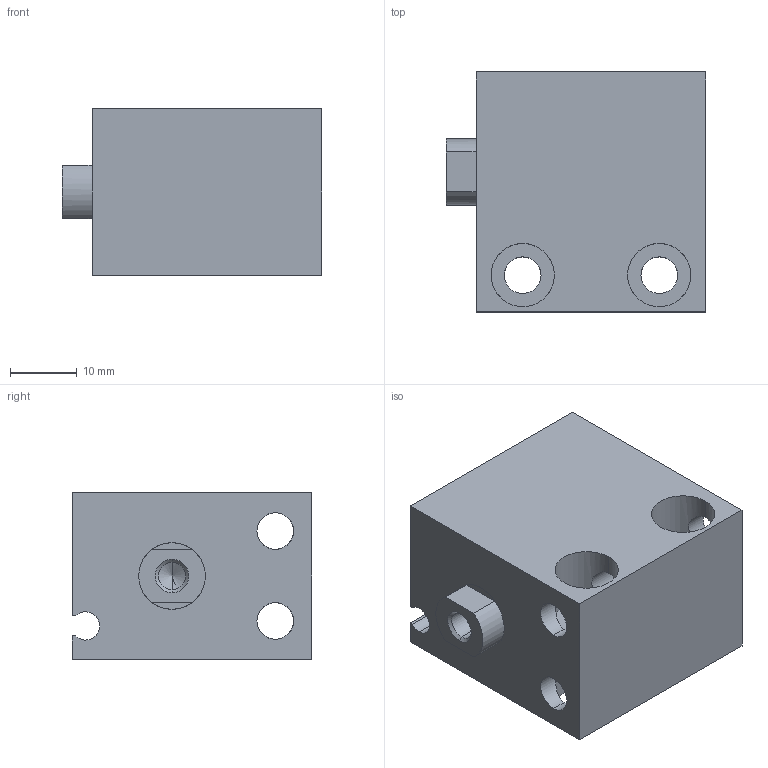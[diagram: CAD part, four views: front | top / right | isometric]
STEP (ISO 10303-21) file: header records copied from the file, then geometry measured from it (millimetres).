
FILE_DESCRIPTION (( 'STEP AP203' ), '1' );
FILE_NAME ('CLJB20-15.STEP', '2020-07-30T19:26:00', ( '' ), ( '' ), 'SwSTEP 2.0', 'SolidWorks 2019', '' );
FILE_SCHEMA (( 'CONFIG_CONTROL_DESIGN' ));
Length unit declared in the file: millimetre
Products named in the file (1): CLJB20-15
Bounding box: 39 x 36 x 25 mm (x, y, z)
Volume: 23467.4 mm3; surface area: 11299.1 mm2
Topology: 2 solids, 2 shells, 75 faces, 188 edges, 113 vertices
Faces by surface type: cylinder 41, plane 22, cone 12
Entity records: 3255 total; most frequent: CARTESIAN_POINT 1359, DIRECTION 394, ORIENTED_EDGE 364, EDGE_CURVE 182, AXIS2_PLACEMENT_3D 152, VERTEX_POINT 113, EDGE_LOOP 93, VECTOR 90
